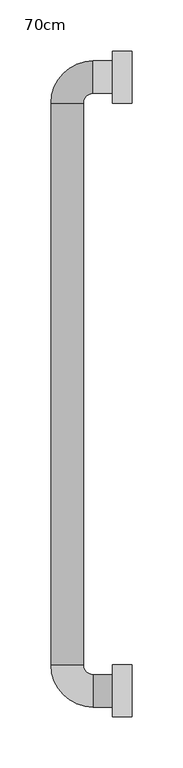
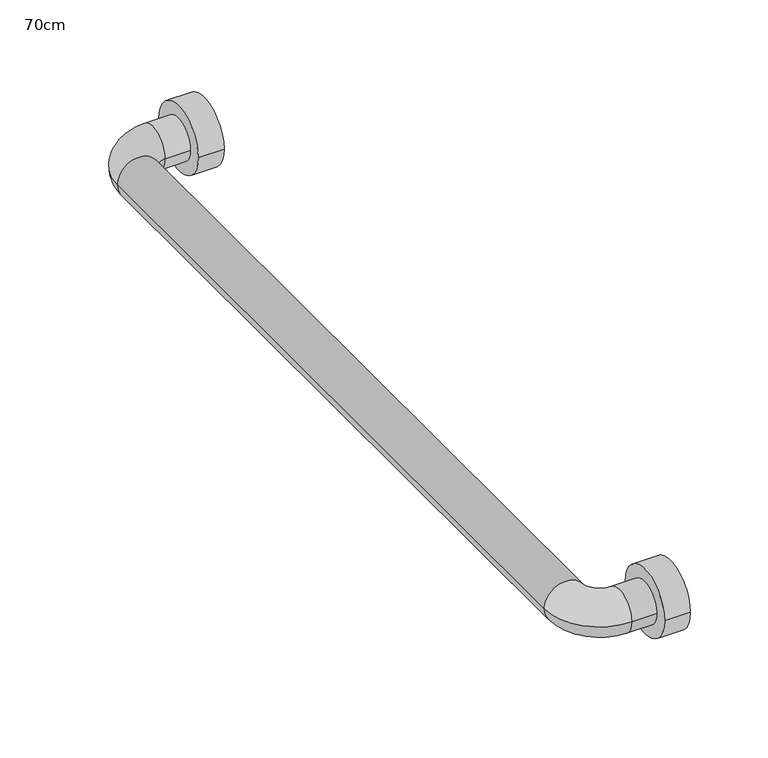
"""IFC4 building model written with IfcOpenShell, lengths in millimetres: proxy geometry, Barre d'appui simple60cm : 70cm."""

from ifc_helpers import new_model, si_unit, point, frame, frame_2d, origin, place, context, project, spatial, circle_curve, ellipse_curve, trimmed, segment, composite_curve, outline, extrude, source, transform, mapped, element, save
from ifc_brep_helpers import plane_surface, cylinder_surface, revolved_surface, advanced_brep


def proxy_70cm_59f035bf(model_context):
    return source(origin(), model_context, "Body", "SolidModel", [
        extrude(outline(composite_curve([segment(trimmed(circle_curve(frame_2d((-304.8, 900.0)), 25.4), [point((-279.4, 900.0))], [point((-330.2, 900.0))], False, "CARTESIAN"), True, "CONTINUOUS"), segment(trimmed(circle_curve(frame_2d((-304.8, 900.0)), 25.4), [point((-330.2, 900.0))], [point((-279.4, 900.0))], False, "CARTESIAN"), True, "CONTINUOUS")], self_intersect=False)), frame((-19.05, 0.0, 0.0), z_axis=(1.0, 0.0, 0.0), x_axis=(0.0, 1.0, 0.0)), (0.0, 0.0, 1.0), 19.05),
        extrude(outline(composite_curve([segment(trimmed(circle_curve(frame_2d((-904.8, 900.0)), 25.4), [point((-879.4, 900.0))], [point((-930.2, 900.0))], False, "CARTESIAN"), True, "CONTINUOUS"), segment(trimmed(circle_curve(frame_2d((-904.8, 900.0)), 25.4), [point((-930.2, 900.0))], [point((-879.4, 900.0))], False, "CARTESIAN"), True, "CONTINUOUS")], self_intersect=False)), frame((-19.05, 0.0, 0.0), z_axis=(1.0, 0.0, 0.0), x_axis=(0.0, 1.0, 0.0)), (0.0, 0.0, 1.0), 19.05),
        advanced_brep(
        [(-19.05, -320.675, 900.0), (-19.05, -288.925, 900.0), (-38.1, -288.925, 900.0), (-38.1, -320.675, 900.0), (-79.375, -330.2, 900.0), (-47.625, -330.2, 900.0), (-79.375, -879.4, 900.0), (-47.625, -879.4, 900.0), (-38.1, -920.675, 900.0), (-38.1, -888.925, 900.0), (-19.05, -888.925, 900.0), (-19.05, -920.675, 900.0)],
        [
            (0, 1, circle_curve(frame((-19.05, -304.8, 900.0), z_axis=(1.0, 0.0, 0.0), x_axis=(0.0, 1.0, 0.0)), 15.875)),
            (1, 0, circle_curve(frame((-19.05, -304.8, 900.0), z_axis=(1.0, 0.0, 0.0), x_axis=(0.0, 1.0, 0.0)), 15.875)),
            (1, 2),
            (2, 3, circle_curve(frame((-38.1, -304.8, 900.0), z_axis=(1.0, 0.0, 0.0), x_axis=(0.0, 1.0, 0.0)), 15.875)),
            (3, 0),
            (3, 2, circle_curve(frame((-38.1, -304.8, 900.0), z_axis=(1.0, 0.0, 0.0), x_axis=(0.0, 1.0, 0.0)), 15.875)),
            (4, 5, circle_curve(frame((-63.5, -330.2, 900.0), z_axis=(0.0, 1.0, 0.0), x_axis=(-1.0, 0.0, 0.0)), 15.875)),
            (5, 3, circle_curve(frame((-38.1, -330.2, 900.0), z_axis=(0.0, 0.0, -1.0), x_axis=(0.0, 1.0, 0.0)), 9.525)),
            (2, 4, circle_curve(frame((-38.1, -330.2, 900.0), z_axis=(0.0, 0.0, 1.0), x_axis=(0.0, 1.0, 0.0)), 41.275)),
            (5, 4, circle_curve(frame((-63.5, -330.2, 900.0), z_axis=(0.0, 1.0, 0.0), x_axis=(-1.0, 0.0, 0.0)), 15.875)),
            (4, 6),
            (6, 7, circle_curve(frame((-63.5, -879.4, 900.0), z_axis=(0.0, 1.0, 0.0), x_axis=(-1.0, 0.0, 0.0)), 15.875)),
            (7, 5),
            (7, 6, circle_curve(frame((-63.5, -879.4, 900.0), z_axis=(0.0, 1.0, 0.0), x_axis=(-1.0, 0.0, 0.0)), 15.875)),
            (8, 9, circle_curve(frame((-38.1, -904.8, 900.0), z_axis=(-1.0, 0.0, 0.0), x_axis=(0.0, -1.0, 0.0)), 15.875)),
            (9, 7, circle_curve(frame((-38.1, -879.4, 900.0), z_axis=(0.0, 0.0, -1.0), x_axis=(-1.0, 0.0, 0.0)), 9.525)),
            (6, 8, circle_curve(frame((-38.1, -879.4, 900.0), z_axis=(0.0, 0.0, 1.0), x_axis=(-1.0, 0.0, 0.0)), 41.275)),
            (9, 8, circle_curve(frame((-38.1, -904.8, 900.0), z_axis=(-1.0, 0.0, 0.0), x_axis=(0.0, -1.0, 0.0)), 15.875)),
            (10, 11, circle_curve(frame((-19.05, -904.8, 900.0), z_axis=(1.0, 0.0, 0.0), x_axis=(0.0, -1.0, 0.0)), 15.875)),
            (11, 10, circle_curve(frame((-19.05, -904.8, 900.0), z_axis=(1.0, 0.0, 0.0), x_axis=(0.0, -1.0, 0.0)), 15.875)),
            (8, 11),
            (10, 9),
        ],
        [
            plane_surface(frame((-19.05, -304.8, -915.875), z_axis=(1.0, 0.0, 0.0), x_axis=(0.0, 1.0, 0.0))),
            cylinder_surface(frame((-19.05, -304.8, 900.0), z_axis=(1.0, 0.0, 0.0), x_axis=(0.0, 1.0, 0.0)), 15.875),
            revolved_surface(trimmed(ellipse_curve(frame((-38.1, -304.8, 900.0), z_axis=(-1.0, 0.0, 0.0), x_axis=(0.0, 1.0, 0.0)), 15.875, 15.875), [point((-38.1, -320.675, 900.0))], [point((-38.1, -288.925, 900.0))], True, "CARTESIAN"), (-38.1, -330.2, 0.0), (0.0, 0.0, -1.0)),
            revolved_surface(trimmed(ellipse_curve(frame((-38.1, -304.8, 900.0), z_axis=(-1.0, 0.0, 0.0), x_axis=(0.0, 1.0, 0.0)), 15.875, 15.875), [point((-38.1, -288.925, 900.0))], [point((-38.1, -320.675, 900.0))], True, "CARTESIAN"), (-38.1, -330.2, 0.0), (0.0, 0.0, -1.0)),
            cylinder_surface(frame((-63.5, -330.2, 900.0), z_axis=(0.0, 1.0, 0.0), x_axis=(-1.0, 0.0, 0.0)), 15.875),
            revolved_surface(trimmed(ellipse_curve(frame((-63.5, -879.4, 900.0), z_axis=(0.0, -1.0, 0.0), x_axis=(-1.0, 0.0, 0.0)), 15.875, 15.875), [point((-47.625, -879.4, 900.0))], [point((-79.375, -879.4, 900.0))], True, "CARTESIAN"), (-38.1, -879.4, 0.0), (0.0, 0.0, -1.0)),
            revolved_surface(trimmed(ellipse_curve(frame((-63.5, -879.4, 900.0), z_axis=(0.0, -1.0, 0.0), x_axis=(-1.0, 0.0, 0.0)), 15.875, 15.875), [point((-79.375, -879.4, 900.0))], [point((-47.625, -879.4, 900.0))], True, "CARTESIAN"), (-38.1, -879.4, 0.0), (0.0, 0.0, -1.0)),
            plane_surface(frame((-19.05, -904.8, -915.875), z_axis=(1.0, 0.0, 0.0), x_axis=(0.0, -1.0, 0.0))),
            cylinder_surface(frame((-38.1, -904.8, 900.0), z_axis=(-1.0, 0.0, 0.0), x_axis=(0.0, -1.0, 0.0)), 15.875),
        ],
        [
            (0, [[1, 2]]),
            (1, [[3, 4, 5, -2]]),
            (1, [[-5, 6, -3, -1]]),
            (2, [[7, 8, -4, 9]]),
            (3, [[10, -9, -6, -8]]),
            (4, [[11, 12, 13, -7]]),
            (4, [[-13, 14, -11, -10]]),
            (5, [[15, 16, -12, 17]]),
            (6, [[18, -17, -14, -16]]),
            (7, [[19, 20]]),
            (8, [[21, -19, 22, -15]]),
            (8, [[-22, -20, -21, -18]]),
        ],
    ),
    ])


if __name__ == "__main__":
    model = new_model("IFC4")
    model_context = context("Model", 3, world=origin())
    ifc_project = project(units=[si_unit("LENGTHUNIT", "METRE", prefix="MILLI")], contexts=[model_context])
    site = spatial("IfcSite", under=ifc_project)
    building = spatial("IfcBuilding", under=site)
    placement = place(None, origin())
    proxy_70cm_shape = proxy_70cm_59f035bf(model_context)
    element("IfcBuildingElementProxy", 1, Name="Barre d'appui simple60cm : 70cm", ObjectType="Barre d'appui simple60cm : 70cm", at=placement, inside=building, context=model_context, shape_type="MappedRepresentation", body=[
        mapped(proxy_70cm_shape, transform((0.0, 0.0, 0.0), x_axis=(1.0, 0.0, 0.0), y_axis=(0.0, 1.0, 0.0), z_axis=(0.0, 0.0, 1.0))),
    ])
    save(model, "model.ifc")
